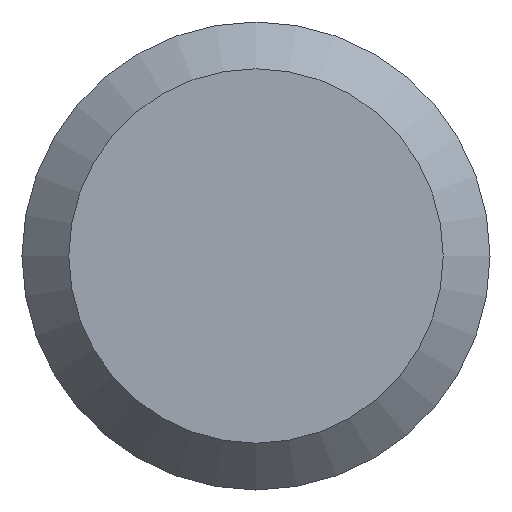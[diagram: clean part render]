
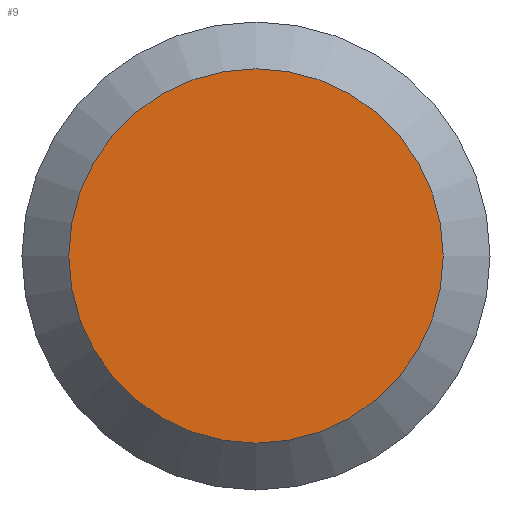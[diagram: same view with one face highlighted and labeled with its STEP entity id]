
A CAD part, left-side view. The second image highlights one B-rep face of the part: STEP entity #9.
In plain terms, the highlighted planar face has unit normal (-1, 0, 0).
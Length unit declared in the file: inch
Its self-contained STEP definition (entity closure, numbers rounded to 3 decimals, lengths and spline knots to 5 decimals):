
#9 = ADVANCED_FACE ( 'NONE', ( #241 ), #198, .F. ) ;
#19 = DIRECTION ( 'NONE',  ( 0., 0., -1. ) ) ;
#34 = CIRCLE ( 'NONE', #141, 0.0936 ) ;
#39 = DIRECTION ( 'NONE',  ( -1., 0., 0. ) ) ;
#44 = CARTESIAN_POINT ( 'NONE',  ( 0., 0.117, 0. ) ) ;
#97 = DIRECTION ( 'NONE',  ( 1., 0., 0. ) ) ;
#108 = CARTESIAN_POINT ( 'NONE',  ( 0., 0., -0.0936 ) ) ;
#123 = EDGE_CURVE ( 'NONE', #246, #246, #34, .T. ) ;
#124 = ORIENTED_EDGE ( 'NONE', *, *, #123, .T. ) ;
#141 = AXIS2_PLACEMENT_3D ( 'NONE', #164, #39, #19 ) ;
#164 = CARTESIAN_POINT ( 'NONE',  ( 0., 0., 0. ) ) ;
#181 = EDGE_LOOP ( 'NONE', ( #124 ) ) ;
#189 = AXIS2_PLACEMENT_3D ( 'NONE', #44, #97, #237 ) ;
#198 = PLANE ( 'NONE',  #189 ) ;
#237 = DIRECTION ( 'NONE',  ( 0., 0., -1. ) ) ;
#241 = FACE_OUTER_BOUND ( 'NONE', #181, .T. ) ;
#246 = VERTEX_POINT ( 'NONE', #108 ) ;
